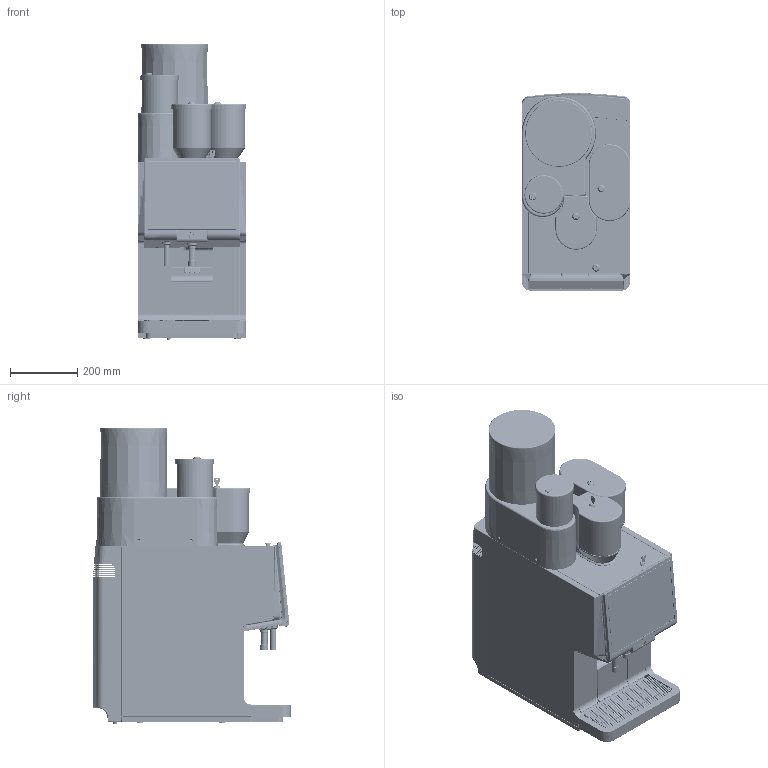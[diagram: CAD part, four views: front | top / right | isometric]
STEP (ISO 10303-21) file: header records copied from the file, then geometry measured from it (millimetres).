
FILE_DESCRIPTION(/* description */ ('Unknown'),/* implementation_level */ '2;1');
FILE_NAME(/* name */ '1500F',/* time_stamp */ '2023-11-21T10:23:22+01:00',/* author */ ('Unknown'),/* organization */ ('Unknown'),/* preprocessor_version */ 'ST-DEVELOPER v18.1',/* originating_system */ 'Solid Edge',/* authorisation */ 'Unknown');
FILE_SCHEMA (('AUTOMOTIVE_DESIGN {1 0 10303 214 3 1 1}'));
Products named in the file (1): 1500F_vereinfacht
Bounding box: 325 x 589.79 x 883.24 mm (x, y, z)
Volume: 9927645.3 mm3; surface area: 5305616.3 mm2
Topology: 39 solids, 39 shells, 19463 faces, 50226 edges, 30423 vertices
Faces by surface type: plane 6966, cylinder 5388, bspline 4621, torus 911, cone 862, sphere 715
Full cylindrical faces by diameter (mm): 1.6 x2, 2 x1, 2.5 x1, 2.997 x3, 3 x32, 3.242 x4, 3.3 x7, 3.5 x2, 3.546 x2, 3.7 x3, 4 x1, 4.5 x4, 4.8 x4, 4.9 x3, 4.995 x3, 5 x3, 5.5 x1, 5.6 x4, 6 x1, 7 x2, 7.8 x1, 8 x5, 8.566 x2, 8.8 x1, 9 x2, 9.05 x2, 9.5 x1, 9.6 x2, 9.99 x33, 10 x14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
Entity records: 729465 total; most frequent: CARTESIAN_POINT 278968, ORIENTED_EDGE 96216, DIRECTION 82389, EDGE_CURVE 48108, AXIS2_PLACEMENT_3D 30581, VERTEX_POINT 29852, LINE 21227, VECTOR 21227
